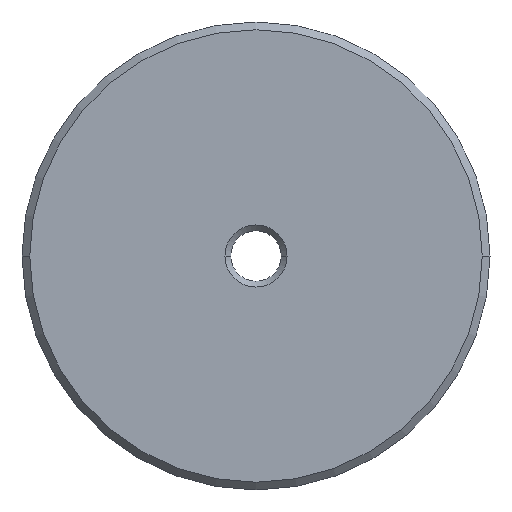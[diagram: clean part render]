
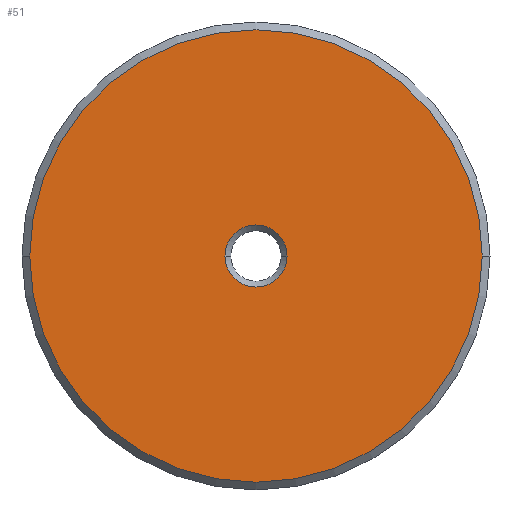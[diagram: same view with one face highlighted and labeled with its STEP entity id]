
A CAD part, left-side view. The second image highlights one B-rep face of the part: STEP entity #51.
In plain terms, the highlighted planar face has unit normal (-1, 0, 0).
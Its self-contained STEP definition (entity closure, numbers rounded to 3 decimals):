
#27=FACE_BOUND('',#99,.F.);
#31=PLANE('',#415);
#51=ADVANCED_FACE('',(#27,#75),#31,.T.);
#75=FACE_OUTER_BOUND('',#100,.F.);
#99=EDGE_LOOP('',(#145,#146));
#100=EDGE_LOOP('',(#147,#148));
#145=ORIENTED_EDGE('',*,*,#282,.T.);
#146=ORIENTED_EDGE('',*,*,#281,.T.);
#147=ORIENTED_EDGE('',*,*,#286,.F.);
#148=ORIENTED_EDGE('',*,*,#283,.F.);
#281=EDGE_CURVE('',#372,#371,#329,.T.);
#282=EDGE_CURVE('',#371,#372,#330,.T.);
#283=EDGE_CURVE('',#370,#369,#331,.T.);
#286=EDGE_CURVE('',#369,#370,#334,.T.);
#329=CIRCLE('',#387,4.);
#330=CIRCLE('',#388,4.);
#331=CIRCLE('',#389,29.163);
#334=CIRCLE('',#392,29.163);
#369=VERTEX_POINT('',#581);
#370=VERTEX_POINT('',#582);
#371=VERTEX_POINT('',#583);
#372=VERTEX_POINT('',#584);
#387=AXIS2_PLACEMENT_3D('',#597,#448,#449);
#388=AXIS2_PLACEMENT_3D('',#598,#450,#451);
#389=AXIS2_PLACEMENT_3D('',#599,#452,#453);
#392=AXIS2_PLACEMENT_3D('',#602,#458,#459);
#415=AXIS2_PLACEMENT_3D('',#645,#524,#525);
#448=DIRECTION('',(-1.,0.,0.));
#449=DIRECTION('',(0.,-1.,0.));
#450=DIRECTION('',(-1.,0.,0.));
#451=DIRECTION('',(0.,1.,0.));
#452=DIRECTION('',(-1.,0.,0.));
#453=DIRECTION('',(0.,1.,0.));
#458=DIRECTION('',(-1.,0.,0.));
#459=DIRECTION('',(0.,-1.,0.));
#524=DIRECTION('',(-1.,0.,0.));
#525=DIRECTION('',(0.,0.,1.));
#581=CARTESIAN_POINT('',(2243.845,-1686.915,6583.05));
#582=CARTESIAN_POINT('',(2243.845,-1628.59,6583.05));
#583=CARTESIAN_POINT('',(2243.845,-1653.752,6583.05));
#584=CARTESIAN_POINT('',(2243.845,-1661.752,6583.05));
#597=CARTESIAN_POINT('',(2243.845,-1657.752,6583.05));
#598=CARTESIAN_POINT('',(2243.845,-1657.752,6583.05));
#599=CARTESIAN_POINT('',(2243.845,-1657.752,6583.05));
#602=CARTESIAN_POINT('',(2243.845,-1657.752,6583.05));
#645=CARTESIAN_POINT('',(2243.845,-1687.915,6552.887));
